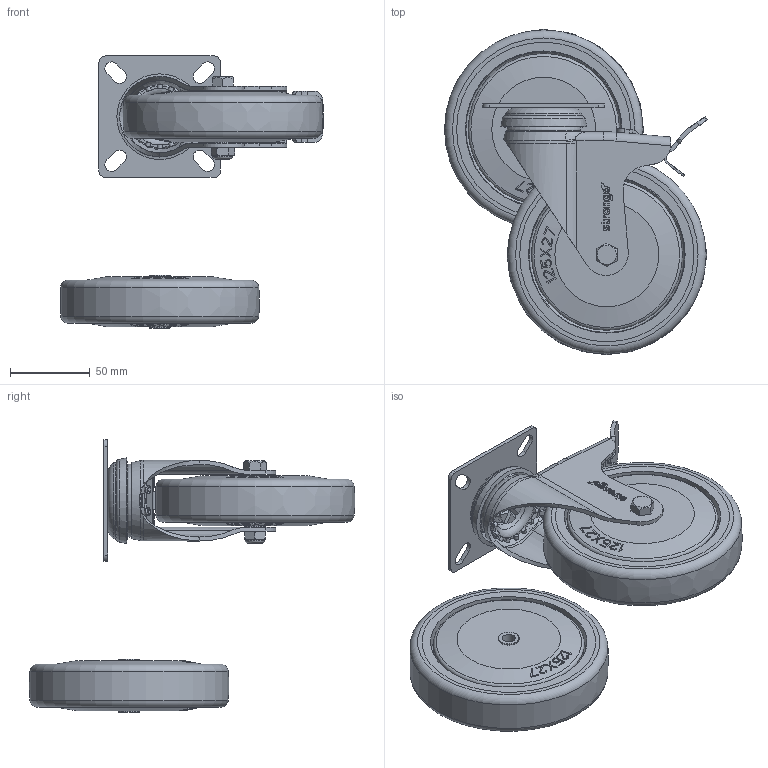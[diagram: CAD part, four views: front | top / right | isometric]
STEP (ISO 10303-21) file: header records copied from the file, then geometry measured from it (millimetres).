
FILE_DESCRIPTION(('STEP AP203'),'1');
FILE_NAME('E:/Pomoc/Strongo/344h39J125rZPE.stp',' ',(' '),(' '),'XStep 1.0',' ',' ');
FILE_SCHEMA(('CONFIG_CONTROL_DESIGN'));
Length unit declared in the file: metre
Products named in the file (3): Assembly134; Assembly180; Next assembly relationship
Bounding box: 164.55 x 203.75 x 170.28 mm (x, y, z)
Volume: 516460.7 mm3; surface area: 352272.7 mm2
Topology: 132 solids, 132 shells, 4015 faces, 11277 edges, 7490 vertices
Faces by surface type: plane 2645, cylinder 575, torus 239, cone 233, bspline 219, sphere 104
Full cylindrical faces by diameter (mm): 2.076 x4, 4.014 x2, 5 x2, 5.85 x2, 7 x1, 7.9 x2, 8 x21, 8.25 x4, 12 x6, 12.2 x2, 12.3 x6, 12.5 x1, 13.2 x4, 17.4 x4, 18 x4, 18.5 x2, 26 x4, 29 x4, 32 x6, 92.5 x4, 94.5 x4, 109 x4
Entity records: 69302 total; most frequent: CARTESIAN_POINT 23207, ORIENTED_EDGE 9922, DIRECTION 8638, EDGE_CURVE 4961, LINE 3382, VECTOR 3382, VERTEX_POINT 3340, AXIS2_PLACEMENT_3D 2628
